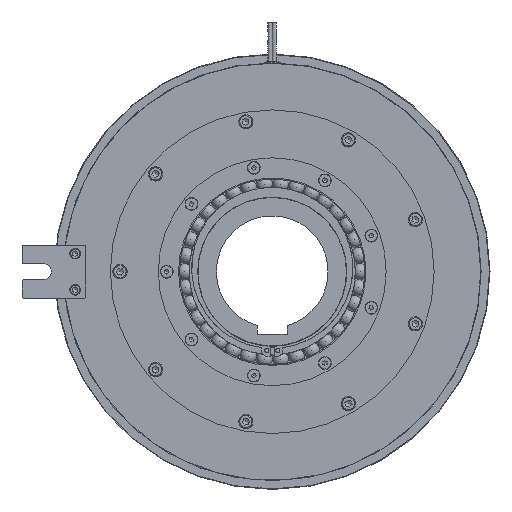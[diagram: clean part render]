
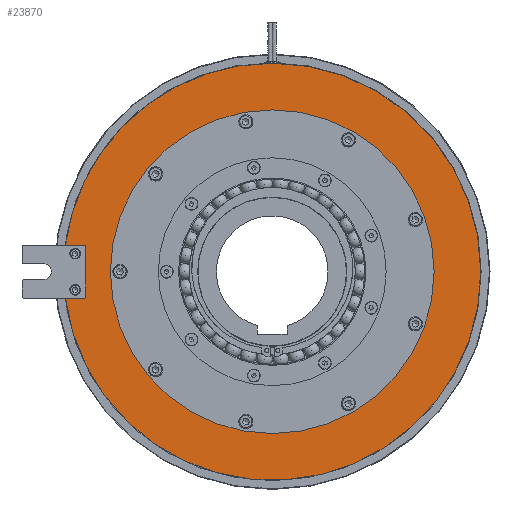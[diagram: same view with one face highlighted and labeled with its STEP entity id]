
A CAD part, left-side view. The second image highlights one B-rep face of the part: STEP entity #23870.
In plain terms, the highlighted planar face has unit normal (-1, 0, 0).
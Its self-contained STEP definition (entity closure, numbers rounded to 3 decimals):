
#726=FACE_BOUND('',#3769,.T.);
#1311=PLANE('',#26499);
#2296=FACE_OUTER_BOUND('',#3768,.T.);
#3768=EDGE_LOOP('',(#20450,#20451,#20452,#20453,#20454,#20455,#20456,#20457));
#3769=EDGE_LOOP('',(#20458,#20459));
#4728=CIRCLE('',#24198,195.8);
#4731=CIRCLE('',#24201,195.8);
#5761=CIRCLE('',#25841,2.);
#5765=CIRCLE('',#25850,2.);
#5861=CIRCLE('',#26014,152.);
#5862=CIRCLE('',#26015,152.);
#6169=CIRCLE('',#26500,195.8);
#7077=LINE('',#44942,#8110);
#7083=LINE('',#44963,#8116);
#7088=LINE('',#44973,#8121);
#8110=VECTOR('',#31010,10.);
#8116=VECTOR('',#31034,10.);
#8121=VECTOR('',#31047,10.);
#8618=VERTEX_POINT('',#34203);
#8619=VERTEX_POINT('',#34205);
#8621=VERTEX_POINT('',#34209);
#8622=VERTEX_POINT('',#34211);
#10014=VERTEX_POINT('',#44933);
#10015=VERTEX_POINT('',#44935);
#10021=VERTEX_POINT('',#44957);
#10022=VERTEX_POINT('',#44959);
#10169=VERTEX_POINT('',#45428);
#10170=VERTEX_POINT('',#45429);
#11234=EDGE_CURVE('',#8619,#8618,#4728,.T.);
#11237=EDGE_CURVE('',#8622,#8621,#4731,.T.);
#13190=EDGE_CURVE('',#10015,#10014,#5761,.T.);
#13194=EDGE_CURVE('',#10014,#8619,#7077,.T.);
#13202=EDGE_CURVE('',#10022,#10021,#5765,.T.);
#13204=EDGE_CURVE('',#10021,#10015,#7083,.T.);
#13210=EDGE_CURVE('',#8621,#10022,#7088,.T.);
#13400=EDGE_CURVE('',#10169,#10170,#5861,.T.);
#13401=EDGE_CURVE('',#10170,#10169,#5862,.T.);
#14053=EDGE_CURVE('',#8618,#8622,#6169,.T.);
#20450=ORIENTED_EDGE('',*,*,#13194,.T.);
#20451=ORIENTED_EDGE('',*,*,#11234,.T.);
#20452=ORIENTED_EDGE('',*,*,#14053,.T.);
#20453=ORIENTED_EDGE('',*,*,#11237,.T.);
#20454=ORIENTED_EDGE('',*,*,#13210,.T.);
#20455=ORIENTED_EDGE('',*,*,#13202,.T.);
#20456=ORIENTED_EDGE('',*,*,#13204,.T.);
#20457=ORIENTED_EDGE('',*,*,#13190,.T.);
#20458=ORIENTED_EDGE('',*,*,#13400,.T.);
#20459=ORIENTED_EDGE('',*,*,#13401,.T.);
#23870=ADVANCED_FACE('',(#2296,#726),#1311,.T.);
#24198=AXIS2_PLACEMENT_3D('',#34206,#27193,#27194);
#24201=AXIS2_PLACEMENT_3D('',#34212,#27199,#27200);
#25841=AXIS2_PLACEMENT_3D('',#44936,#31003,#31004);
#25850=AXIS2_PLACEMENT_3D('',#44960,#31029,#31030);
#26014=AXIS2_PLACEMENT_3D('',#45430,#31431,#31432);
#26015=AXIS2_PLACEMENT_3D('',#45431,#31433,#31434);
#26499=AXIS2_PLACEMENT_3D('',#53067,#32474,#32475);
#26500=AXIS2_PLACEMENT_3D('',#53068,#32476,#32477);
#27193=DIRECTION('center_axis',(-1.,0.,0.));
#27194=DIRECTION('ref_axis',(0.,1.,0.));
#27199=DIRECTION('center_axis',(-1.,0.,0.));
#27200=DIRECTION('ref_axis',(0.,1.,0.));
#31003=DIRECTION('center_axis',(1.,0.,0.));
#31004=DIRECTION('ref_axis',(0.,-0.707,-0.707));
#31010=DIRECTION('',(0.,1.,0.));
#31029=DIRECTION('center_axis',(1.,0.,0.));
#31030=DIRECTION('ref_axis',(0.,-0.707,0.707));
#31034=DIRECTION('',(0.,0.,-1.));
#31047=DIRECTION('',(0.,-1.,0.));
#31431=DIRECTION('center_axis',(1.,0.,0.));
#31432=DIRECTION('ref_axis',(0.,1.,0.));
#31433=DIRECTION('center_axis',(1.,0.,0.));
#31434=DIRECTION('ref_axis',(0.,1.,0.));
#32474=DIRECTION('center_axis',(-1.,0.,0.));
#32475=DIRECTION('ref_axis',(0.,0.,
1.));
#32476=DIRECTION('center_axis',(-1.,0.,0.));
#32477=DIRECTION('ref_axis',(0.,1.,0.));
#34203=CARTESIAN_POINT('',(-92.7,-195.8,0.));
#34205=CARTESIAN_POINT('',(-92.7,194.197,-25.));
#34206=CARTESIAN_POINT('Origin',(-92.7,0.,0.));
#34209=CARTESIAN_POINT('',(-92.7,194.197,25.));
#34211=CARTESIAN_POINT('',(-92.7,0.,195.8));
#34212=CARTESIAN_POINT('Origin',(-92.7,0.,0.));
#44933=CARTESIAN_POINT('',(-92.7,177.,-25.));
#44935=CARTESIAN_POINT('',(-92.7,175.,-23.));
#44936=CARTESIAN_POINT('Origin',(-92.7,177.,-23.));
#44942=CARTESIAN_POINT('',(-92.7,170.2,-25.));
#44957=CARTESIAN_POINT('',(-92.7,175.,23.));
#44959=CARTESIAN_POINT('',(-92.7,177.,25.));
#44960=CARTESIAN_POINT('Origin',(-92.7,177.,23.));
#44963=CARTESIAN_POINT('',(-92.7,175.,12.5));
#44973=CARTESIAN_POINT('',(-92.7,200.2,25.));
#45428=CARTESIAN_POINT('',(-92.7,152.,0.));
#45429=CARTESIAN_POINT('',(-92.7,-152.,0.));
#45430=CARTESIAN_POINT('Origin',(-92.7,0.,0.));
#45431=CARTESIAN_POINT('Origin',(-92.7,0.,0.));
#53067=CARTESIAN_POINT('Origin',(-92.7,165.4,0.));
#53068=CARTESIAN_POINT('Origin',(-92.7,0.,0.));
